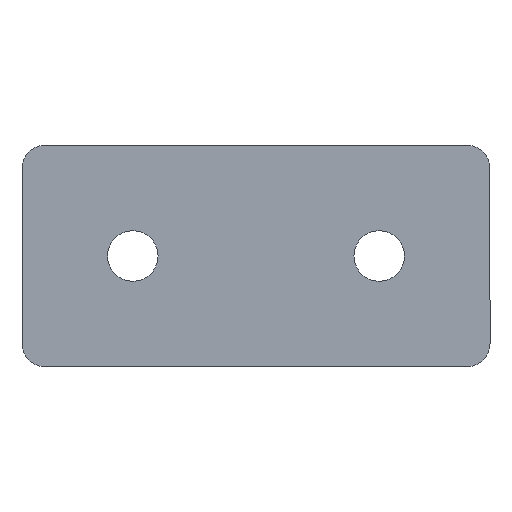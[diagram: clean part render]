
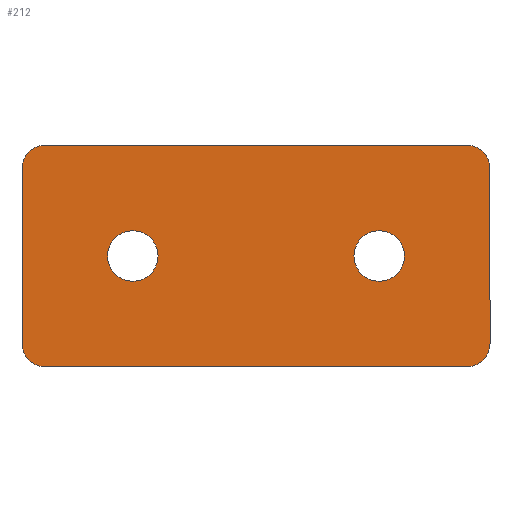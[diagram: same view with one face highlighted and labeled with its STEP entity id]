
A CAD part, front view. The second image highlights one B-rep face of the part: STEP entity #212.
In plain terms, the highlighted planar face has unit normal (0, -1, 0).
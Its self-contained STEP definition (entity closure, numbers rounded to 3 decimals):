
#6 = CIRCLE ( 'NONE', #118, 4.1 ) ;
#12 = CARTESIAN_POINT ( 'NONE',  ( -9.081, 0., -23.135 ) ) ;
#16 = ORIENTED_EDGE ( 'NONE', *, *, #219, .F. ) ;
#20 = DIRECTION ( 'NONE',  ( -1., 0., 0. ) ) ;
#25 = DIRECTION ( 'NONE',  ( 0., 1., 0. ) ) ;
#31 = LINE ( 'NONE', #92, #488 ) ;
#43 = AXIS2_PLACEMENT_3D ( 'NONE', #249, #70, #366 ) ;
#67 = DIRECTION ( 'NONE',  ( 0., 1., 0. ) ) ;
#70 = DIRECTION ( 'NONE',  ( 0., 1., 0. ) ) ;
#72 = VERTEX_POINT ( 'NONE', #286 ) ;
#75 = ORIENTED_EDGE ( 'NONE', *, *, #183, .F. ) ;
#79 = AXIS2_PLACEMENT_3D ( 'NONE', #155, #191, #116 ) ;
#84 = ORIENTED_EDGE ( 'NONE', *, *, #328, .T. ) ;
#92 = CARTESIAN_POINT ( 'NONE',  ( 63.135, 0., 9.081 ) ) ;
#94 = DIRECTION ( 'NONE',  ( 0., 0., -1. ) ) ;
#99 = CIRCLE ( 'NONE', #79, 4.1 ) ;
#102 = CARTESIAN_POINT ( 'NONE',  ( -12.865, 0., -19.351 ) ) ;
#104 = PLANE ( 'NONE',  #367 ) ;
#105 = VERTEX_POINT ( 'NONE', #139 ) ;
#106 = DIRECTION ( 'NONE',  ( 0., 0., 1. ) ) ;
#110 = CARTESIAN_POINT ( 'NONE',  ( -9.081, 0., 9.081 ) ) ;
#114 = LINE ( 'NONE', #502, #470 ) ;
#115 = CIRCLE ( 'NONE', #251, 3.784 ) ;
#116 = DIRECTION ( 'NONE',  ( 0., 0., -1. ) ) ;
#118 = AXIS2_PLACEMENT_3D ( 'NONE', #156, #483, #307 ) ;
#125 = VERTEX_POINT ( 'NONE', #102 ) ;
#127 = VERTEX_POINT ( 'NONE', #12 ) ;
#137 = VERTEX_POINT ( 'NONE', #182 ) ;
#139 = CARTESIAN_POINT ( 'NONE',  ( -12.865, 0., 9.081 ) ) ;
#144 = CIRCLE ( 'NONE', #207, 3.784 ) ;
#146 = CARTESIAN_POINT ( 'NONE',  ( 59.351, 0., -19.351 ) ) ;
#152 = CIRCLE ( 'NONE', #43, 3.784 ) ;
#154 = FACE_BOUND ( 'NONE', #440, .T. ) ;
#155 = CARTESIAN_POINT ( 'NONE',  ( 5.135, 0., -5.135 ) ) ;
#156 = CARTESIAN_POINT ( 'NONE',  ( 45.135, 0., -5.135 ) ) ;
#158 = ORIENTED_EDGE ( 'NONE', *, *, #176, .F. ) ;
#165 = CIRCLE ( 'NONE', #510, 4.1 ) ;
#167 = ORIENTED_EDGE ( 'NONE', *, *, #430, .F. ) ;
#176 = EDGE_CURVE ( 'NONE', #453, #306, #31, .T. ) ;
#182 = CARTESIAN_POINT ( 'NONE',  ( 45.135, 0., -9.235 ) ) ;
#183 = EDGE_CURVE ( 'NONE', #72, #127, #192, .T. ) ;
#184 = DIRECTION ( 'NONE',  ( 0., 0., 1. ) ) ;
#187 = DIRECTION ( 'NONE',  ( 0., 0., 1. ) ) ;
#191 = DIRECTION ( 'NONE',  ( 0., 1., 0. ) ) ;
#192 = LINE ( 'NONE', #209, #410 ) ;
#194 = CARTESIAN_POINT ( 'NONE',  ( 5.135, 0., -9.235 ) ) ;
#199 = DIRECTION ( 'NONE',  ( 0., 0., -1. ) ) ;
#203 = EDGE_CURVE ( 'NONE', #105, #400, #144, .T. ) ;
#207 = AXIS2_PLACEMENT_3D ( 'NONE', #389, #25, #187 ) ;
#209 = CARTESIAN_POINT ( 'NONE',  ( 59.351, 0., -23.135 ) ) ;
#212 = ADVANCED_FACE ( 'NONE', ( #217, #154, #318 ), #104, .F. ) ;
#213 = LINE ( 'NONE', #343, #409 ) ;
#217 = FACE_BOUND ( 'NONE', #408, .T. ) ;
#218 = CARTESIAN_POINT ( 'NONE',  ( 59.351, 0., 9.081 ) ) ;
#219 = EDGE_CURVE ( 'NONE', #306, #72, #115, .T. ) ;
#231 = ORIENTED_EDGE ( 'NONE', *, *, #475, .T. ) ;
#236 = CARTESIAN_POINT ( 'NONE',  ( 63.135, 0., 9.081 ) ) ;
#237 = VERTEX_POINT ( 'NONE', #471 ) ;
#249 = CARTESIAN_POINT ( 'NONE',  ( -9.081, 0., -19.351 ) ) ;
#251 = AXIS2_PLACEMENT_3D ( 'NONE', #146, #67, #106 ) ;
#254 = CIRCLE ( 'NONE', #428, 3.784 ) ;
#258 = CIRCLE ( 'NONE', #403, 4.1 ) ;
#265 = CARTESIAN_POINT ( 'NONE',  ( 59.351, 0., 12.865 ) ) ;
#275 = ORIENTED_EDGE ( 'NONE', *, *, #282, .F. ) ;
#282 = EDGE_CURVE ( 'NONE', #314, #453, #254, .T. ) ;
#286 = CARTESIAN_POINT ( 'NONE',  ( 59.351, 0., -23.135 ) ) ;
#302 = DIRECTION ( 'NONE',  ( 0., 1., 0. ) ) ;
#306 = VERTEX_POINT ( 'NONE', #309 ) ;
#307 = DIRECTION ( 'NONE',  ( 0., 0., -1. ) ) ;
#309 = CARTESIAN_POINT ( 'NONE',  ( 63.135, 0., -19.351 ) ) ;
#310 = CARTESIAN_POINT ( 'NONE',  ( 5.135, 0., -5.135 ) ) ;
#314 = VERTEX_POINT ( 'NONE', #265 ) ;
#317 = EDGE_CURVE ( 'NONE', #400, #314, #213, .T. ) ;
#318 = FACE_OUTER_BOUND ( 'NONE', #461, .T. ) ;
#319 = DIRECTION ( 'NONE',  ( 0., 1., 0. ) ) ;
#321 = DIRECTION ( 'NONE',  ( 0., 1., 0. ) ) ;
#328 = EDGE_CURVE ( 'NONE', #385, #237, #99, .T. ) ;
#343 = CARTESIAN_POINT ( 'NONE',  ( -9.081, 0., 12.865 ) ) ;
#351 = ORIENTED_EDGE ( 'NONE', *, *, #469, .F. ) ;
#366 = DIRECTION ( 'NONE',  ( 0., 0., 1. ) ) ;
#367 = AXIS2_PLACEMENT_3D ( 'NONE', #110, #302, #184 ) ;
#372 = ORIENTED_EDGE ( 'NONE', *, *, #203, .F. ) ;
#385 = VERTEX_POINT ( 'NONE', #194 ) ;
#389 = CARTESIAN_POINT ( 'NONE',  ( -9.081, 0., 9.081 ) ) ;
#394 = EDGE_CURVE ( 'NONE', #398, #137, #6, .T. ) ;
#395 = ORIENTED_EDGE ( 'NONE', *, *, #394, .T. ) ;
#398 = VERTEX_POINT ( 'NONE', #518 ) ;
#400 = VERTEX_POINT ( 'NONE', #489 ) ;
#403 = AXIS2_PLACEMENT_3D ( 'NONE', #448, #319, #199 ) ;
#408 = EDGE_LOOP ( 'NONE', ( #456, #84 ) ) ;
#409 = VECTOR ( 'NONE', #437, 1000. ) ;
#410 = VECTOR ( 'NONE', #20, 1000. ) ;
#413 = EDGE_CURVE ( 'NONE', #237, #385, #165, .T. ) ;
#415 = DIRECTION ( 'NONE',  ( 0., 0., -1. ) ) ;
#428 = AXIS2_PLACEMENT_3D ( 'NONE', #218, #516, #433 ) ;
#430 = EDGE_CURVE ( 'NONE', #125, #105, #114, .T. ) ;
#433 = DIRECTION ( 'NONE',  ( 0., 0., 1. ) ) ;
#437 = DIRECTION ( 'NONE',  ( 1., 0., 0. ) ) ;
#440 = EDGE_LOOP ( 'NONE', ( #395, #231 ) ) ;
#444 = ORIENTED_EDGE ( 'NONE', *, *, #317, .F. ) ;
#448 = CARTESIAN_POINT ( 'NONE',  ( 45.135, 0., -5.135 ) ) ;
#453 = VERTEX_POINT ( 'NONE', #236 ) ;
#456 = ORIENTED_EDGE ( 'NONE', *, *, #413, .T. ) ;
#461 = EDGE_LOOP ( 'NONE', ( #372, #167, #351, #75, #16, #158, #275, #444 ) ) ;
#469 = EDGE_CURVE ( 'NONE', #127, #125, #152, .T. ) ;
#470 = VECTOR ( 'NONE', #498, 1000. ) ;
#471 = CARTESIAN_POINT ( 'NONE',  ( 5.135, 0., -1.035 ) ) ;
#475 = EDGE_CURVE ( 'NONE', #137, #398, #258, .T. ) ;
#483 = DIRECTION ( 'NONE',  ( 0., 1., 0. ) ) ;
#488 = VECTOR ( 'NONE', #94, 1000. ) ;
#489 = CARTESIAN_POINT ( 'NONE',  ( -9.081, 0., 12.865 ) ) ;
#498 = DIRECTION ( 'NONE',  ( 0., 0., 1. ) ) ;
#502 = CARTESIAN_POINT ( 'NONE',  ( -12.865, 0., -19.351 ) ) ;
#510 = AXIS2_PLACEMENT_3D ( 'NONE', #310, #321, #415 ) ;
#516 = DIRECTION ( 'NONE',  ( 0., 1., 0. ) ) ;
#518 = CARTESIAN_POINT ( 'NONE',  ( 45.135, 0., -1.035 ) ) ;
